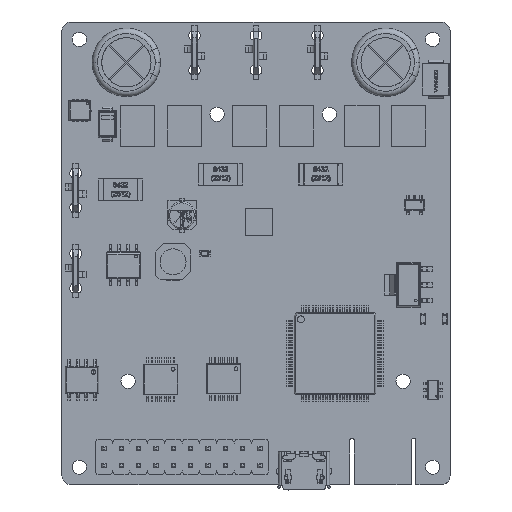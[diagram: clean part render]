
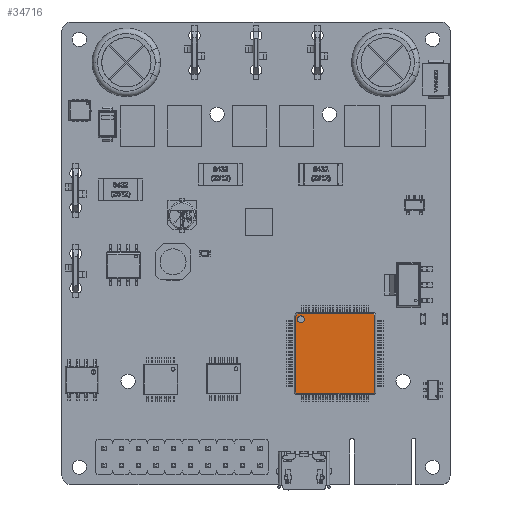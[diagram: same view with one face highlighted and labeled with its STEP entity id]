
A CAD part, top view. The second image highlights one B-rep face of the part: STEP entity #34716.
In plain terms, the highlighted planar face has unit normal (0, 0, 1) as drawn and (0, 1, 0) by its records, which use the part's own axes.
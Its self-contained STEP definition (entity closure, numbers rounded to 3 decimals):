
#33893 = VERTEX_POINT('',#33894);
#33894 = CARTESIAN_POINT('',(-5.,0.7,-5.5));
#33912 = VERTEX_POINT('',#33913);
#33913 = CARTESIAN_POINT('',(-5.,0.7,-4.5));
#33919 = EDGE_CURVE('',#33912,#33893,#33920,.T.);
#33920 = CIRCLE('',#33921,0.5);
#33921 = AXIS2_PLACEMENT_3D('',#33922,#33923,#33924);
#33922 = CARTESIAN_POINT('',(-5.,0.7,-5.));
#33923 = DIRECTION('',(0.,-1.,0.));
#33924 = DIRECTION('',(0.,0.,-1.));
#34524 = VERTEX_POINT('',#34525);
#34525 = CARTESIAN_POINT('',(5.812,0.7,5.606));
#34531 = EDGE_CURVE('',#34532,#34524,#34534,.T.);
#34532 = VERTEX_POINT('',#34533);
#34533 = CARTESIAN_POINT('',(5.606,0.7,5.812));
#34534 = LINE('',#34535,#34536);
#34535 = CARTESIAN_POINT('',(5.606,0.7,5.812));
#34536 = VECTOR('',#34537,1.);
#34537 = DIRECTION('',(0.707,0.,-0.707));
#34553 = EDGE_CURVE('',#34554,#34524,#34556,.T.);
#34554 = VERTEX_POINT('',#34555);
#34555 = CARTESIAN_POINT('',(5.812,0.7,-5.606));
#34556 = LINE('',#34557,#34558);
#34557 = CARTESIAN_POINT('',(5.812,0.7,3.));
#34558 = VECTOR('',#34559,1.);
#34559 = DIRECTION('',(0.,-0.,1.));
#34577 = EDGE_CURVE('',#34578,#34554,#34580,.T.);
#34578 = VERTEX_POINT('',#34579);
#34579 = CARTESIAN_POINT('',(5.606,0.7,-5.812));
#34580 = LINE('',#34581,#34582);
#34581 = CARTESIAN_POINT('',(5.709,0.7,-5.709));
#34582 = VECTOR('',#34583,1.);
#34583 = DIRECTION('',(0.707,-0.,0.707));
#34603 = EDGE_CURVE('',#34604,#34578,#34606,.T.);
#34604 = VERTEX_POINT('',#34605);
#34605 = CARTESIAN_POINT('',(-5.399,0.7,-5.812));
#34606 = LINE('',#34607,#34608);
#34607 = CARTESIAN_POINT('',(3.,0.7,-5.812));
#34608 = VECTOR('',#34609,1.);
#34609 = DIRECTION('',(1.,-0.,0.));
#34627 = EDGE_CURVE('',#34628,#34604,#34630,.T.);
#34628 = VERTEX_POINT('',#34629);
#34629 = CARTESIAN_POINT('',(-5.812,0.7,-5.399));
#34630 = LINE('',#34631,#34632);
#34631 = CARTESIAN_POINT('',(-5.606,0.7,-5.606));
#34632 = VECTOR('',#34633,1.);
#34633 = DIRECTION('',(0.707,-0.,-0.707));
#34653 = EDGE_CURVE('',#34654,#34628,#34656,.T.);
#34654 = VERTEX_POINT('',#34655);
#34655 = CARTESIAN_POINT('',(-5.812,0.7,5.606));
#34656 = LINE('',#34657,#34658);
#34657 = CARTESIAN_POINT('',(-5.812,0.7,-3.));
#34658 = VECTOR('',#34659,1.);
#34659 = DIRECTION('',(-0.,-0.,-1.));
#34677 = EDGE_CURVE('',#34678,#34654,#34680,.T.);
#34678 = VERTEX_POINT('',#34679);
#34679 = CARTESIAN_POINT('',(-5.606,0.7,5.812));
#34680 = LINE('',#34681,#34682);
#34681 = CARTESIAN_POINT('',(-5.709,0.7,5.709));
#34682 = VECTOR('',#34683,1.);
#34683 = DIRECTION('',(-0.707,-0.,-0.707));
#34703 = EDGE_CURVE('',#34532,#34678,#34704,.T.);
#34704 = LINE('',#34705,#34706);
#34705 = CARTESIAN_POINT('',(-3.,0.7,5.812));
#34706 = VECTOR('',#34707,1.);
#34707 = DIRECTION('',(-1.,-0.,-0.));
#34716 = ADVANCED_FACE('',(#34717,#34727),#34737,.T.);
#34717 = FACE_BOUND('',#34718,.T.);
#34718 = EDGE_LOOP('',(#34719,#34726));
#34719 = ORIENTED_EDGE('',*,*,#34720,.T.);
#34720 = EDGE_CURVE('',#33893,#33912,#34721,.T.);
#34721 = CIRCLE('',#34722,0.5);
#34722 = AXIS2_PLACEMENT_3D('',#34723,#34724,#34725);
#34723 = CARTESIAN_POINT('',(-5.,0.7,-5.));
#34724 = DIRECTION('',(0.,-1.,0.));
#34725 = DIRECTION('',(0.,0.,-1.));
#34726 = ORIENTED_EDGE('',*,*,#33919,.T.);
#34727 = FACE_BOUND('',#34728,.T.);
#34728 = EDGE_LOOP('',(#34729,#34730,#34731,#34732,#34733,#34734,#34735,
    #34736));
#34729 = ORIENTED_EDGE('',*,*,#34677,.F.);
#34730 = ORIENTED_EDGE('',*,*,#34703,.F.);
#34731 = ORIENTED_EDGE('',*,*,#34531,.T.);
#34732 = ORIENTED_EDGE('',*,*,#34553,.F.);
#34733 = ORIENTED_EDGE('',*,*,#34577,.F.);
#34734 = ORIENTED_EDGE('',*,*,#34603,.F.);
#34735 = ORIENTED_EDGE('',*,*,#34627,.F.);
#34736 = ORIENTED_EDGE('',*,*,#34653,.F.);
#34737 = PLANE('',#34738);
#34738 = AXIS2_PLACEMENT_3D('',#34739,#34740,#34741);
#34739 = CARTESIAN_POINT('',(0.,0.7,0.));
#34740 = DIRECTION('',(0.,1.,0.));
#34741 = DIRECTION('',(0.,-0.,1.));
